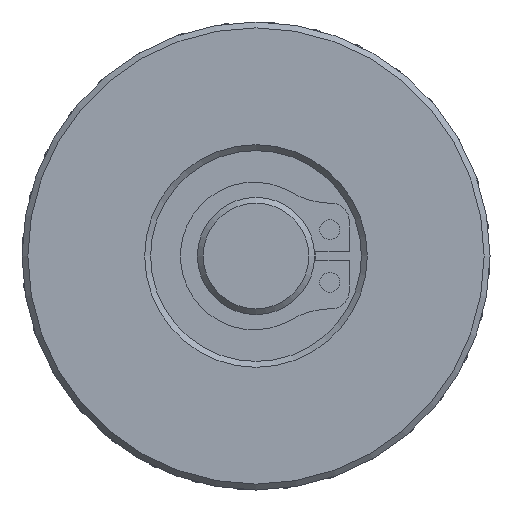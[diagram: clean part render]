
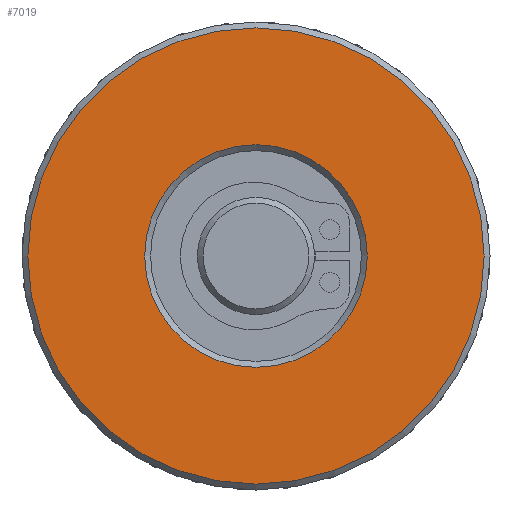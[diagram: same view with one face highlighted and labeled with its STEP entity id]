
A CAD part, front view. The second image highlights one B-rep face of the part: STEP entity #7019.
In plain terms, the highlighted planar face has unit normal (0, -1, 0).
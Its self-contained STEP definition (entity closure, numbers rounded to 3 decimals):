
#398=FACE_BOUND('',#1909,.T.);
#399=FACE_BOUND('',#1910,.T.);
#747=PLANE('',#7702);
#1909=EDGE_LOOP('',(#5527));
#1910=EDGE_LOOP('',(#5528));
#2546=CIRCLE('',#7701,19.475);
#2547=CIRCLE('',#7703,9.5);
#3390=VERTEX_POINT('',#13835);
#3391=VERTEX_POINT('',#13838);
#4182=EDGE_CURVE('',#3390,#3390,#2546,.T.);
#4183=EDGE_CURVE('',#3391,#3391,#2547,.T.);
#5527=ORIENTED_EDGE('',*,*,#4183,.F.);
#5528=ORIENTED_EDGE('',*,*,#4182,.F.);
#7019=ADVANCED_FACE('',(#398,#399),#747,.T.);
#7701=AXIS2_PLACEMENT_3D('',#13836,#9123,#9124);
#7702=AXIS2_PLACEMENT_3D('',#13837,#9125,#9126);
#7703=AXIS2_PLACEMENT_3D('',#13839,#9127,#9128);
#9123=DIRECTION('center_axis',(0.,1.,0.));
#9124=DIRECTION('ref_axis',(-1.,0.,0.));
#9125=DIRECTION('center_axis',(0.,-1.,0.));
#9126=DIRECTION('ref_axis',(0.,0.,-1.));
#9127=DIRECTION('center_axis',(0.,-1.,0.));
#9128=DIRECTION('ref_axis',(-1.,0.,0.));
#13835=CARTESIAN_POINT('',(19.475,-59.,0.));
#13836=CARTESIAN_POINT('Origin',(0.,-59.,0.));
#13837=CARTESIAN_POINT('Origin',(14.488,-59.,0.));
#13838=CARTESIAN_POINT('',(9.5,-59.,0.));
#13839=CARTESIAN_POINT('Origin',(0.,-59.,0.));
